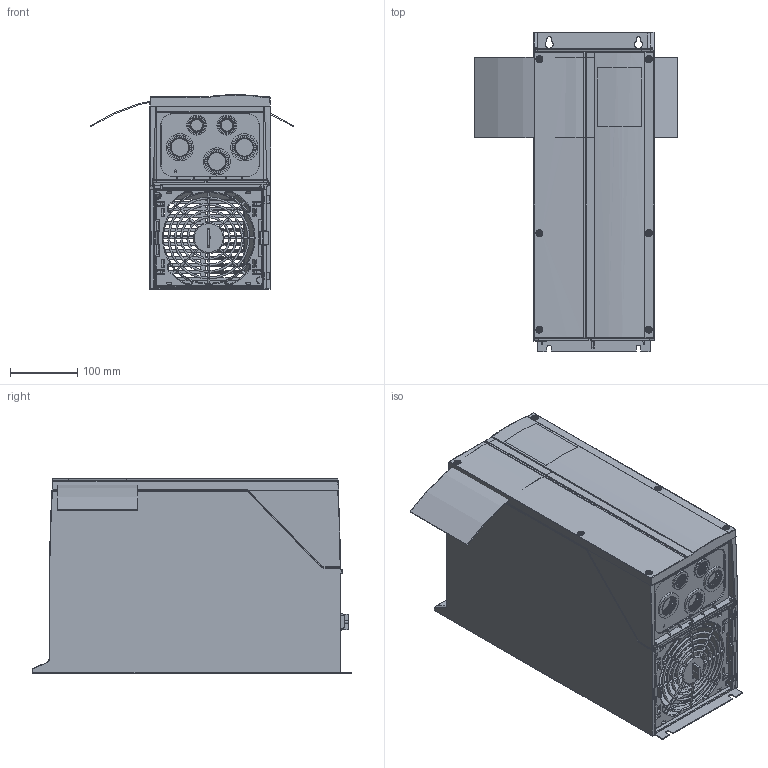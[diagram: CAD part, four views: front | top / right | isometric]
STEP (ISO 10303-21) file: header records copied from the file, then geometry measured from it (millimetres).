
FILE_DESCRIPTION((''),'2;1');
FILE_NAME('PRT0003','2011-11-01T',('U255134'),('Danfoss Power Electronics'),'PRO/ENGINEER BY PARAMETRIC TECHNOLOGY CORPORATION, 2010370','PRO/ENGINEER BY PARAMETRIC TECHNOLOGY CORPORATION, 2010370','');
FILE_SCHEMA(('CONFIG_CONTROL_DESIGN', 'GEOMETRIC_VALIDATION_PROPERTIES_MIM'));
Products named in the file (1): PRT0003
Bounding box: 303.25 x 476 x 289.98 mm (x, y, z)
Volume: 1234357.6 mm3; surface area: 1445321.5 mm2
Topology: 11 solids, 34 shells, 4288 faces, 12577 edges, 8277 vertices
Faces by surface type: plane 2585, cylinder 864, cone 459, torus 254, sphere 65, bspline 55, extrusion 6
Entity records: 179144 total; most frequent: CARTESIAN_POINT 48967, ORIENTED_EDGE 24923, DIRECTION 19594, EDGE_CURVE 12537, VERTEX_POINT 8278, VECTOR 6724, LINE 6718, AXIS2_PLACEMENT_3D 6435
